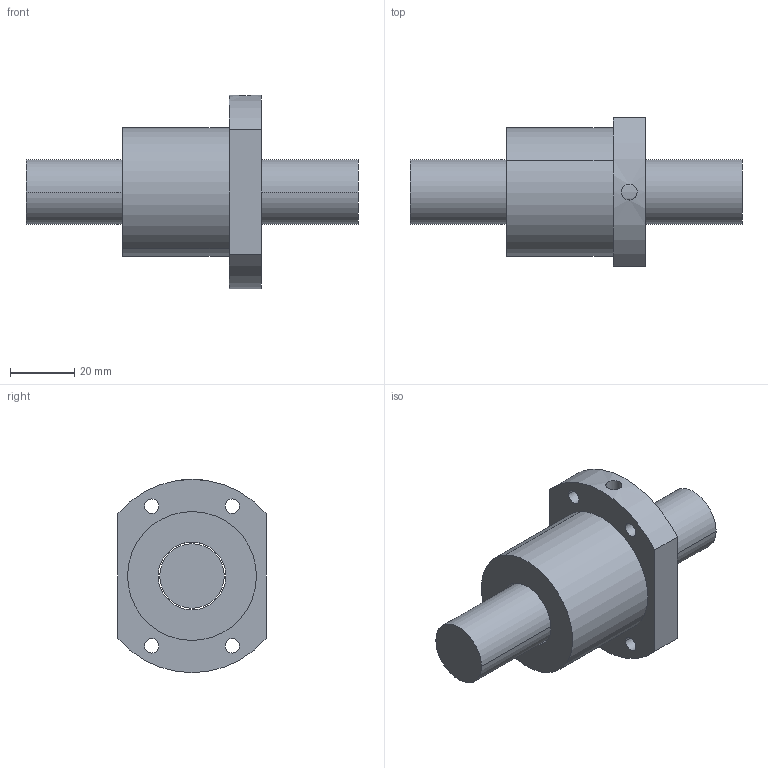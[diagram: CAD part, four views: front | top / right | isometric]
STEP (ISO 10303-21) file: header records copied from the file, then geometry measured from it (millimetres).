
FILE_DESCRIPTION(('CATIA V5 STEP Exchange'),'2;1');
FILE_NAME('C:\Users\aa\Documents\이댈\볼스크류\SFB\완성품\SFB2005D.stp','2019-07-25T00:32:41+00:00',('none'),('none'),'CATIA Version 5 Release 20 SP 7 (IN-10)','CATIA V5 STEP AP203','none');
FILE_SCHEMA(('CONFIG_CONTROL_DESIGN'));
Length unit declared in the file: millimetre
Products named in the file (1): SFB2005D
Bounding box: 103 x 46 x 60 mm (x, y, z)
Volume: 82512.2 mm3; surface area: 20829.8 mm2
Topology: 2 solids, 2 shells, 25 faces, 60 edges, 40 vertices
Faces by surface type: cylinder 18, plane 7
Entity records: 775 total; most frequent: CARTESIAN_POINT 167, ORIENTED_EDGE 120, DIRECTION 88, EDGE_CURVE 60, AXIS2_PLACEMENT_3D 49, VERTEX_POINT 40, EDGE_LOOP 38, CIRCLE 32
